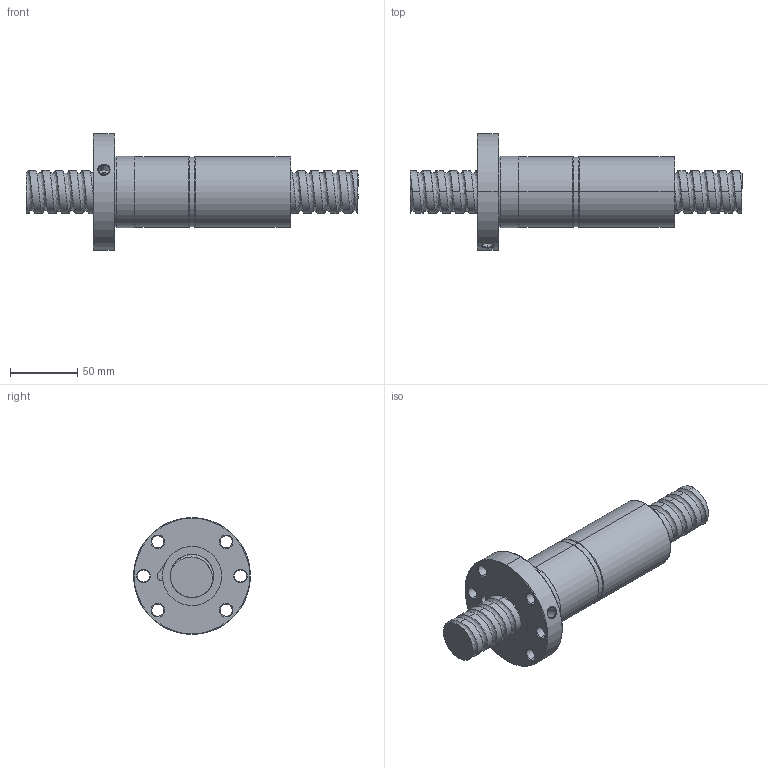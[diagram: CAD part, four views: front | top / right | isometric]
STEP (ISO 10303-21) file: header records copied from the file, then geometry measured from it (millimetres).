
FILE_DESCRIPTION (( 'STEP AP214' ), '1' );
FILE_NAME ('FDDC03210T5-D-A.STEP', '2010-07-06T03:16:27', ( 'XPAUTO' ), ( 'XPAUTO' ), 'SwSTEP 2.0', 'SolidWorks 2007', '' );
FILE_SCHEMA (( 'AUTOMOTIVE_DESIGN' ));
Products named in the file (3): FDDC03210T5-D-A.sldasm-Part-1_預設; FDDC03210T5-D-A; FDDC03210T5-D-A.sldasm-Part-2_預設
Assembly tree (2 placements, depth 2):
  FDDC03210T5-D-A
    FDDC03210T5-D-A.sldasm-Part-1_預設
    FDDC03210T5-D-A.sldasm-Part-2_預設
Bounding box: 247 x 87 x 87 mm (x, y, z)
Volume: 438198.4 mm3; surface area: 83836 mm2
Topology: 2 solids, 2 shells, 148 faces, 374 edges, 235 vertices
Faces by surface type: cylinder 93, cone 24, plane 16, torus 10, bspline 5
Entity records: 31476 total; most frequent: CARTESIAN_POINT 27961, ORIENTED_EDGE 748, DIRECTION 674, EDGE_CURVE 374, AXIS2_PLACEMENT_3D 275, VERTEX_POINT 235, EDGE_LOOP 169, ADVANCED_FACE 148
